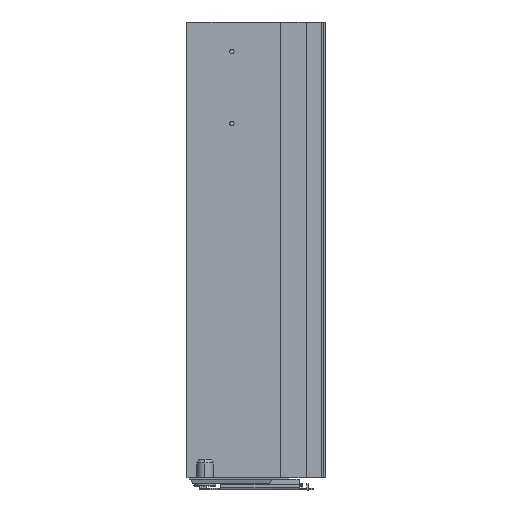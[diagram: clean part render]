
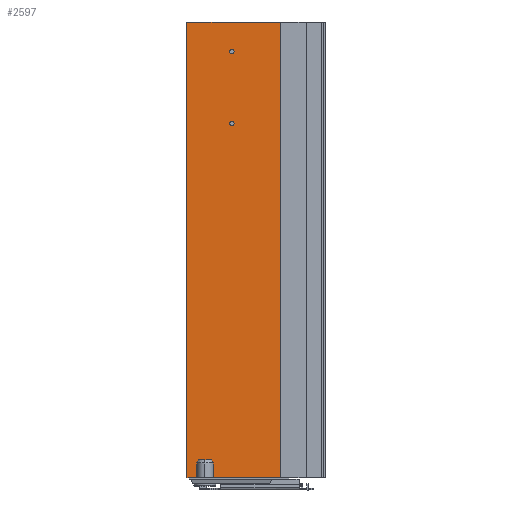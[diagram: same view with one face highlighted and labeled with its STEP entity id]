
A CAD part, left-side view. The second image highlights one B-rep face of the part: STEP entity #2597.
In plain terms, the highlighted planar face has unit normal (-1, 0, 0).
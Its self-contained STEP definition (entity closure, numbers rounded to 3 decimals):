
#11 = VECTOR ( 'NONE', #1383, 1000. ) ;
#94 = VERTEX_POINT ( 'NONE', #2852 ) ;
#121 = ORIENTED_EDGE ( 'NONE', *, *, #1510, .F. ) ;
#132 = EDGE_CURVE ( 'NONE', #1186, #94, #1916, .T. ) ;
#206 = VERTEX_POINT ( 'NONE', #862 ) ;
#250 = CARTESIAN_POINT ( 'NONE',  ( -10.5, 30.85, -18.85 ) ) ;
#342 = FACE_BOUND ( 'NONE', #1470, .T. ) ;
#370 = AXIS2_PLACEMENT_3D ( 'NONE', #1053, #2785, #1306 ) ;
#450 = LINE ( 'NONE', #2426, #1678 ) ;
#478 = DIRECTION ( 'NONE',  ( 0., 1., 0. ) ) ;
#550 = ORIENTED_EDGE ( 'NONE', *, *, #2561, .F. ) ;
#567 = CARTESIAN_POINT ( 'NONE',  ( -10.5, 30.85, -64.618 ) ) ;
#616 = CARTESIAN_POINT ( 'NONE',  ( -10.5, 59.5, 0. ) ) ;
#619 = EDGE_CURVE ( 'NONE', #2568, #2193, #2553, .T. ) ;
#643 = DIRECTION ( 'NONE',  ( 0., 0., -1. ) ) ;
#673 = CARTESIAN_POINT ( 'NONE',  ( -10.5, 29.453, -18.85 ) ) ;
#688 = DIRECTION ( 'NONE',  ( -1., 0., 0. ) ) ;
#711 = CIRCLE ( 'NONE', #2709, 1.397 ) ;
#723 = DIRECTION ( 'NONE',  ( 0., -1., 0. ) ) ;
#736 = LINE ( 'NONE', #616, #1149 ) ;
#805 = ORIENTED_EDGE ( 'NONE', *, *, #132, .F. ) ;
#806 = DIRECTION ( 'NONE',  ( 0., 1., 0. ) ) ;
#862 = CARTESIAN_POINT ( 'NONE',  ( -10.5, 29.453, -64.618 ) ) ;
#887 = CARTESIAN_POINT ( 'NONE',  ( -10.5, 0., -290. ) ) ;
#1019 = DIRECTION ( 'NONE',  ( -1., 0., 0. ) ) ;
#1053 = CARTESIAN_POINT ( 'NONE',  ( -10.5, 59.5, 0. ) ) ;
#1149 = VECTOR ( 'NONE', #1598, 1000. ) ;
#1161 = AXIS2_PLACEMENT_3D ( 'NONE', #567, #2271, #806 ) ;
#1186 = VERTEX_POINT ( 'NONE', #2941 ) ;
#1233 = EDGE_CURVE ( 'NONE', #2377, #206, #2667, .T. ) ;
#1280 = ORIENTED_EDGE ( 'NONE', *, *, #619, .F. ) ;
#1306 = DIRECTION ( 'NONE',  ( 0., 1., 0. ) ) ;
#1383 = DIRECTION ( 'NONE',  ( 0., 1., 0. ) ) ;
#1470 = EDGE_LOOP ( 'NONE', ( #2000, #1658 ) ) ;
#1473 = FACE_OUTER_BOUND ( 'NONE', #3016, .T. ) ;
#1510 = EDGE_CURVE ( 'NONE', #2193, #2180, #3026, .T. ) ;
#1522 = CIRCLE ( 'NONE', #1799, 1.397 ) ;
#1598 = DIRECTION ( 'NONE',  ( 0., 0., -1. ) ) ;
#1615 = VERTEX_POINT ( 'NONE', #2142 ) ;
#1634 = EDGE_CURVE ( 'NONE', #1615, #2233, #711, .T. ) ;
#1658 = ORIENTED_EDGE ( 'NONE', *, *, #2906, .F. ) ;
#1678 = VECTOR ( 'NONE', #1717, 1000. ) ;
#1717 = DIRECTION ( 'NONE',  ( 0., 1., 0. ) ) ;
#1763 = VECTOR ( 'NONE', #643, 1000. ) ;
#1799 = AXIS2_PLACEMENT_3D ( 'NONE', #250, #1941, #478 ) ;
#1872 = CARTESIAN_POINT ( 'NONE',  ( -10.5, 0., 0. ) ) ;
#1916 = LINE ( 'NONE', #2610, #11 ) ;
#1941 = DIRECTION ( 'NONE',  ( -1., 0., 0. ) ) ;
#2000 = ORIENTED_EDGE ( 'NONE', *, *, #1634, .F. ) ;
#2012 = EDGE_LOOP ( 'NONE', ( #2643, #550 ) ) ;
#2049 = PLANE ( 'NONE',  #370 ) ;
#2142 = CARTESIAN_POINT ( 'NONE',  ( -10.5, 32.247, -18.85 ) ) ;
#2153 = CARTESIAN_POINT ( 'NONE',  ( -10.5, 30.85, -18.85 ) ) ;
#2180 = VERTEX_POINT ( 'NONE', #887 ) ;
#2191 = CARTESIAN_POINT ( 'NONE',  ( -10.5, 32.247, -64.618 ) ) ;
#2193 = VERTEX_POINT ( 'NONE', #2355 ) ;
#2233 = VERTEX_POINT ( 'NONE', #673 ) ;
#2249 = AXIS2_PLACEMENT_3D ( 'NONE', #2497, #1019, #2747 ) ;
#2271 = DIRECTION ( 'NONE',  ( -1., 0., 0. ) ) ;
#2355 = CARTESIAN_POINT ( 'NONE',  ( -10.5, 0., 0. ) ) ;
#2376 = EDGE_CURVE ( 'NONE', #2180, #1186, #450, .T. ) ;
#2377 = VERTEX_POINT ( 'NONE', #2191 ) ;
#2394 = DIRECTION ( 'NONE',  ( 0., 1., 0. ) ) ;
#2426 = CARTESIAN_POINT ( 'NONE',  ( -10.5, 59.9, -290. ) ) ;
#2497 = CARTESIAN_POINT ( 'NONE',  ( -10.5, 30.85, -64.618 ) ) ;
#2522 = CARTESIAN_POINT ( 'NONE',  ( -10.5, 59.5, 0. ) ) ;
#2553 = LINE ( 'NONE', #2680, #2961 ) ;
#2561 = EDGE_CURVE ( 'NONE', #206, #2377, #2839, .T. ) ;
#2568 = VERTEX_POINT ( 'NONE', #2522 ) ;
#2597 = ADVANCED_FACE ( 'NONE', ( #2774, #1473, #342 ), #2049, .F. ) ;
#2610 = CARTESIAN_POINT ( 'NONE',  ( -10.5, 59.9, -290. ) ) ;
#2643 = ORIENTED_EDGE ( 'NONE', *, *, #1233, .F. ) ;
#2667 = CIRCLE ( 'NONE', #2249, 1.397 ) ;
#2674 = EDGE_CURVE ( 'NONE', #2568, #94, #736, .T. ) ;
#2680 = CARTESIAN_POINT ( 'NONE',  ( -10.5, 59.5, 0. ) ) ;
#2709 = AXIS2_PLACEMENT_3D ( 'NONE', #2153, #688, #2394 ) ;
#2747 = DIRECTION ( 'NONE',  ( 0., 1., 0. ) ) ;
#2774 = FACE_BOUND ( 'NONE', #2012, .T. ) ;
#2785 = DIRECTION ( 'NONE',  ( 1., 0., 0. ) ) ;
#2803 = ORIENTED_EDGE ( 'NONE', *, *, #2376, .F. ) ;
#2839 = CIRCLE ( 'NONE', #1161, 1.397 ) ;
#2852 = CARTESIAN_POINT ( 'NONE',  ( -10.5, 59.5, -290. ) ) ;
#2906 = EDGE_CURVE ( 'NONE', #2233, #1615, #1522, .T. ) ;
#2915 = ORIENTED_EDGE ( 'NONE', *, *, #2674, .T. ) ;
#2941 = CARTESIAN_POINT ( 'NONE',  ( -10.5, 58., -290. ) ) ;
#2961 = VECTOR ( 'NONE', #723, 1000. ) ;
#3016 = EDGE_LOOP ( 'NONE', ( #2915, #805, #2803, #121, #1280 ) ) ;
#3026 = LINE ( 'NONE', #1872, #1763 ) ;
